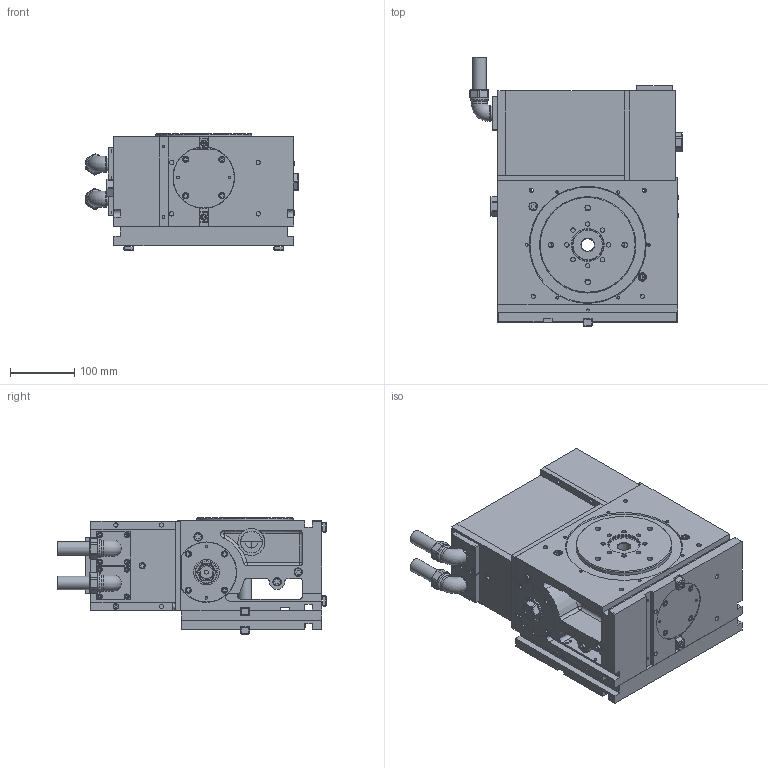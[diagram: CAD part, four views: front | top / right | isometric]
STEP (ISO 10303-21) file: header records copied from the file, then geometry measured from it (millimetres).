
FILE_DESCRIPTION (( 'STEP AP203' ), '1' );
FILE_NAME ('1505993　MDW150R-03.STEP', '2021-10-07T07:37:27', ( '' ), ( '' ), 'SwSTEP 2.0', 'SolidWorks 2021', '' );
FILE_SCHEMA (( 'CONFIG_CONTROL_DESIGN' ));
Length unit declared in the file: millimetre
Products named in the file (1): 1505993　MDW150R-03
Bounding box: 330.6 x 419 x 182 mm (x, y, z)
Surface area: 794320.7 mm2 (no closed solid volume)
Topology: 0 solids, 91 shells, 989 faces, 2801 edges, 1897 vertices
Faces by surface type: plane 710, cylinder 197, cone 68, torus 8, sphere 6
Full cylindrical faces by diameter (mm): 4.2 x21, 4.3 x2, 5.2 x2, 6 x2, 6.5 x8, 6.8 x18, 7.22 x4, 8 x11, 8.5 x4, 8.6 x4, 8.72 x3, 9.5 x16, 11 x4, 13 x1, 13.3 x2, 14 x13, 15.8 x2, 20 x3, 21.3 x2, 23 x2, 25 x4, 29 x2, 32 x1, 34 x1, 35 x1, 38 x1, 40 x1, 42 x1, 50 x1, 51 x1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
Entity records: 30487 total; most frequent: CARTESIAN_POINT 5609, DIRECTION 5119, ORIENTED_EDGE 4267, EDGE_CURVE 2542, VERTEX_POINT 1856, LINE 1855, VECTOR 1855, AXIS2_PLACEMENT_3D 1632
